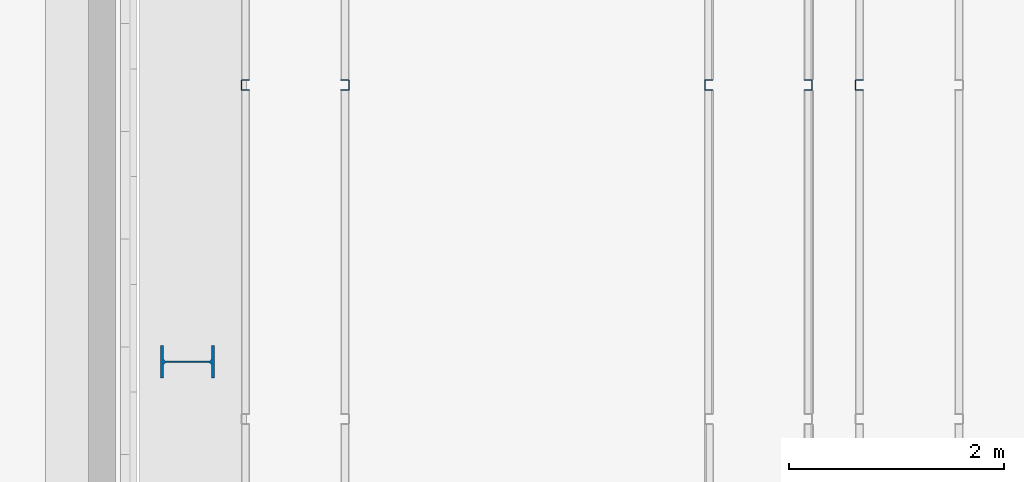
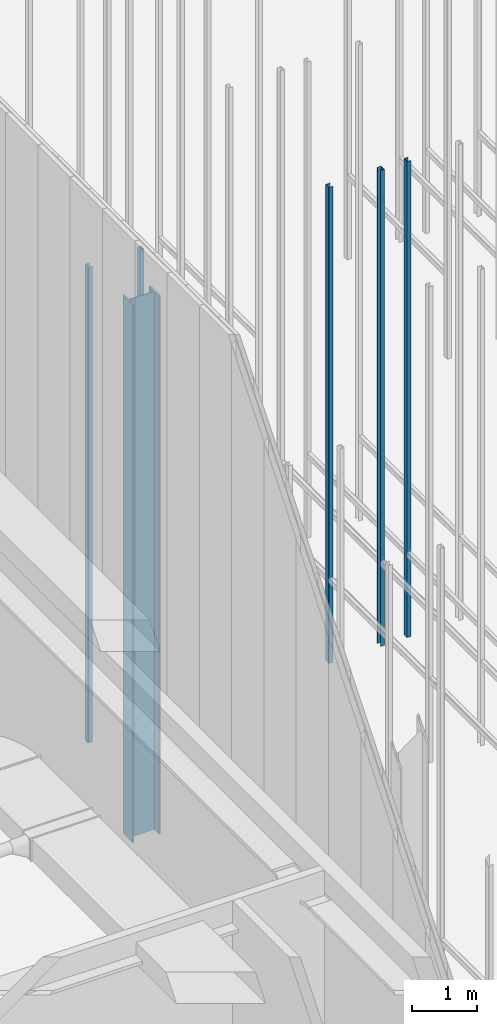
# One storey, part 21 of 302: 6 columns.
"""IFC2X3 building model written with IfcOpenShell, lengths in metres."""

from ifc_helpers import new_model, entity, si_unit, converted_unit, derived_unit, direction, frame, frame_2d, origin, place, context, subcontext, project, spatial, polyline, circle_curve, parameter, trimmed, segment, composite_curve, outline, extrude, source, transform, mapped, material, type_object, type_shapes, element, save


model = new_model("IFC2X3")

# Units and contexts
model_context = context("Model", 3, precision=1e-05, world=origin(), true_north=direction((6.12303176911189e-17, 1.0)))
body_context = subcontext(model_context, "Body", "Model", "MODEL_VIEW")
ifc_project = project(units=[si_unit("LENGTHUNIT", "METRE"), si_unit("AREAUNIT", "SQUARE_METRE"), si_unit("VOLUMEUNIT", "CUBIC_METRE"), converted_unit("PLANEANGLEUNIT", "DEGREE", entity("IfcRatioMeasure", 0.0174532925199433), si_unit("PLANEANGLEUNIT", "RADIAN"), dimensions=[0, 0, 0, 0, 0, 0, 0]), si_unit("MASSUNIT", "GRAM", prefix="KILO"), derived_unit("MASSDENSITYUNIT", [(si_unit("MASSUNIT", "GRAM", prefix="KILO"), 1), (si_unit("LENGTHUNIT", "METRE"), -3)]), derived_unit("MOMENTOFINERTIAUNIT", [(si_unit("LENGTHUNIT", "METRE"), 4)]), si_unit("TIMEUNIT", "SECOND"), si_unit("FREQUENCYUNIT", "HERTZ"), si_unit("THERMODYNAMICTEMPERATUREUNIT", "DEGREE_CELSIUS"), derived_unit("THERMALTRANSMITTANCEUNIT", [(si_unit("MASSUNIT", "GRAM", prefix="KILO"), 1), (si_unit("THERMODYNAMICTEMPERATUREUNIT", "KELVIN"), -1), (si_unit("TIMEUNIT", "SECOND"), -3)]), derived_unit("VOLUMETRICFLOWRATEUNIT", [(si_unit("LENGTHUNIT", "METRE"), 3), (si_unit("TIMEUNIT", "SECOND"), -1)]), si_unit("ELECTRICCURRENTUNIT", "AMPERE"), si_unit("ELECTRICVOLTAGEUNIT", "VOLT"), si_unit("POWERUNIT", "WATT"), si_unit("FORCEUNIT", "NEWTON", prefix="KILO"), si_unit("ILLUMINANCEUNIT", "LUX"), si_unit("LUMINOUSFLUXUNIT", "LUMEN"), si_unit("LUMINOUSINTENSITYUNIT", "CANDELA"), derived_unit("USERDEFINED", [(si_unit("MASSUNIT", "GRAM", prefix="KILO"), -1), (si_unit("LENGTHUNIT", "METRE"), -2), (si_unit("TIMEUNIT", "SECOND"), 3), (si_unit("LUMINOUSFLUXUNIT", "LUMEN"), 1)]), derived_unit("LINEARVELOCITYUNIT", [(si_unit("LENGTHUNIT", "METRE"), 1), (si_unit("TIMEUNIT", "SECOND"), -1)]), si_unit("PRESSUREUNIT", "PASCAL"), derived_unit("USERDEFINED", [(si_unit("LENGTHUNIT", "METRE"), -2), (si_unit("MASSUNIT", "GRAM", prefix="KILO"), 1), (si_unit("TIMEUNIT", "SECOND"), -2)]), derived_unit("LINEARFORCEUNIT", [(si_unit("MASSUNIT", "GRAM", prefix="KILO"), 1), (si_unit("LENGTHUNIT", "METRE"), 1), (si_unit("TIMEUNIT", "SECOND"), -2), (si_unit("LENGTHUNIT", "METRE"), -1)]), derived_unit("PLANARFORCEUNIT", [(si_unit("MASSUNIT", "GRAM", prefix="KILO"), 1), (si_unit("LENGTHUNIT", "METRE"), 1), (si_unit("TIMEUNIT", "SECOND"), -2), (si_unit("LENGTHUNIT", "METRE"), -2)])], contexts=[model_context])

# Site, building, storey
site_placement = place(None, origin())
site = spatial("IfcSite", under=ifc_project, at=site_placement, Name="Default", CompositionType="ELEMENT")
building_placement = place(site_placement, origin())
building = spatial("IfcBuilding", under=site, at=building_placement, CompositionType="ELEMENT")
storey_placement = place(building_placement, frame((0.0, 0.0, -1.3)))
storey = spatial("IfcBuildingStorey", under=building, at=storey_placement, Name="00_EG", CompositionType="ELEMENT", Elevation=-1.3)

# Columns
ifc_material = material(Name="Metall - Baustahl S235")
column_type_1 = type_object("IfcColumnType", Name="HEB Stütze:HEB 500", PredefinedType="COLUMN", material=ifc_material)
shared_shape_1 = source(origin(), body_context, "Body", "SweptSolid", [
    extrude(outline(composite_curve([segment(polyline([(0.222, -0.15), (0.25, -0.15)]), True, "CONTINUOUS"), segment(polyline([(0.25, -0.15), (0.25, 0.15)]), True, "CONTINUOUS"), segment(polyline([(0.25, 0.15), (0.222, 0.15)]), True, "CONTINUOUS"), segment(polyline([(0.222, 0.15), (0.222, 0.0342500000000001)]), True, "CONTINUOUS"), segment(trimmed(circle_curve(frame_2d((0.195, 0.0342500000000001), x_axis=(1.0, 0.0)), 0.0270000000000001), [parameter(270.0)], [parameter(0.0)], True, "PARAMETER"), False, "CONTINUOUS"), segment(polyline([(0.195, 0.00724999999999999), (-0.195, 0.00724999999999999)]), True, "CONTINUOUS"), segment(trimmed(circle_curve(frame_2d((-0.195, 0.03425), x_axis=(0.0, -1.0)), 0.027), [parameter(270.0)], [parameter(0.0)], True, "PARAMETER"), False, "CONTINUOUS"), segment(polyline([(-0.222, 0.0342500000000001), (-0.222, 0.15)]), True, "CONTINUOUS"), segment(polyline([(-0.222, 0.15), (-0.25, 0.15)]), True, "CONTINUOUS"), segment(polyline([(-0.25, 0.15), (-0.25, -0.15)]), True, "CONTINUOUS"), segment(polyline([(-0.25, -0.15), (-0.222, -0.15)]), True, "CONTINUOUS"), segment(polyline([(-0.222, -0.15), (-0.222, -0.03425)]), True, "CONTINUOUS"), segment(trimmed(circle_curve(frame_2d((-0.195, -0.03425), x_axis=(-1.0, 0.0)), 0.027), [parameter(269.999999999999)], [parameter(0.0)], True, "PARAMETER"), False, "CONTINUOUS"), segment(polyline([(-0.195, -0.00724999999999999), (0.195, -0.00724999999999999)]), True, "CONTINUOUS"), segment(trimmed(circle_curve(frame_2d((0.195, -0.03425), x_axis=(0.0, 1.0)), 0.027), [parameter(270.0)], [parameter(0.0)], True, "PARAMETER"), False, "CONTINUOUS"), segment(polyline([(0.222, -0.0342499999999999), (0.222, -0.15)]), True, "CONTINUOUS")], self_intersect=False)), frame((0.0, 0.0, -0.0300000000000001), z_axis=(0.0, 0.0, 1.0), x_axis=(0.0, -1.0, 0.0)), (0.0, 0.0, 1.0), 10.175),
])
type_shapes(column_type_1, [shared_shape_1])
column_placement = place(storey_placement, frame((-206.990111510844, 40.028088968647, 1.3), z_axis=(0.0, 0.0, 1.0), x_axis=(0.0, -1.0, 0.0)))
element("IfcColumn", 1, at=column_placement, inside=storey, type_object=column_type_1, material=ifc_material, Name="HEB Stütze:HEB 500", ObjectType="HEB Stütze:HEB 500", context=body_context, shape_type="MappedRepresentation", body=[
    mapped(shared_shape_1, transform((0.0, 0.0, 0.0), scale=1.0)),
])
column_type_2 = type_object("IfcColumnType", Name="Leichter Stahl Schlossschrauben Stütze:C 100", PredefinedType="COLUMN", material=ifc_material)
shared_shape_2 = source(origin(), body_context, "Body", "SweptSolid", [
    extrude(outline(composite_curve([segment(polyline([(-0.0469749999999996, -0.0499999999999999), (0.0214500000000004, -0.0499999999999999)]), True, "CONTINUOUS"), segment(trimmed(circle_curve(frame_2d((0.0214500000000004, -0.0434249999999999), x_axis=(0.0, -1.0)), 0.00657500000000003), [parameter(0.0)], [parameter(89.9999999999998)], True, "PARAMETER"), True, "CONTINUOUS"), segment(polyline([(0.0280250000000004, -0.0434249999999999), (0.0280250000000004, 0.0434250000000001)]), True, "CONTINUOUS"), segment(trimmed(circle_curve(frame_2d((0.0214500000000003, 0.0434250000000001), x_axis=(1.0, 0.0)), 0.0065750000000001), [parameter(0.0)], [parameter(89.9999999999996)], True, "PARAMETER"), True, "CONTINUOUS"), segment(polyline([(0.0214500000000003, 0.0500000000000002), (-0.0469750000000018, 0.0500000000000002)]), True, "CONTINUOUS"), segment(polyline([(-0.0469750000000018, 0.0500000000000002), (-0.0469750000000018, 0.0450000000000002)]), True, "CONTINUOUS"), segment(polyline([(-0.0469750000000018, 0.0450000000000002), (0.0214500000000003, 0.0450000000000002)]), True, "CONTINUOUS"), segment(trimmed(circle_curve(frame_2d((0.0214500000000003, 0.0434249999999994), x_axis=(0.0, 1.0)), 0.00157500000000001), [parameter(269.999999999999)], [parameter(0.0)], True, "PARAMETER"), False, "CONTINUOUS"), segment(polyline([(0.0230250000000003, 0.0434249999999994), (0.0230250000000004, -0.0434249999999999)]), True, "CONTINUOUS"), segment(trimmed(circle_curve(frame_2d((0.0214500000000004, -0.0434249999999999), x_axis=(1.0, 0.0)), 0.00157500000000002), [parameter(270.0)], [parameter(0.0)], True, "PARAMETER"), False, "CONTINUOUS"), segment(polyline([(0.0214500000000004, -0.0449999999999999), (-0.0469749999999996, -0.0449999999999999)]), True, "CONTINUOUS"), segment(polyline([(-0.0469749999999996, -0.0449999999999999), (-0.0469749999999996, -0.0499999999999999)]), True, "CONTINUOUS")], self_intersect=False)), frame((0.0499999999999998, 0.0280250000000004, -0.0300000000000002), z_axis=(0.0, 0.0, 1.0), x_axis=(0.0, -1.0, 0.0)), (0.0, 0.0, 1.0), 9.0),
])
type_shapes(column_type_2, [shared_shape_2])
for number, where, z_axis, x_axis in (
    (2, (-200.790111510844, 42.648088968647, 1.3), (0.0, 0.0, 1.0), (0.0, -1.0, 0.0)),
    (3, (-202.190111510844, 42.648088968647, 1.3), (0.0, 0.0, 1.0), (0.0, -1.0, 0.0)),
    (4, (-206.490111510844, 42.6480889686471, 1.3), (0.0, 0.0, 1.0), (0.0, -1.0, 0.0)),
):
    element("IfcColumn", number, at=place(storey_placement, frame(where, z_axis=z_axis, x_axis=x_axis)), inside=storey, type_object=column_type_2, material=ifc_material, Name="Leichter Stahl Schlossschrauben Stütze:C 100", ObjectType="Leichter Stahl Schlossschrauben Stütze:C 100", context=body_context, shape_type="MappedRepresentation", body=[
        mapped(shared_shape_2, transform((0.0, 0.0, 0.0), scale=1.0)),
    ])
column_type_3 = type_object("IfcColumnType", Name="Leichter Stahl Schlossschrauben Stütze:C 100", PredefinedType="COLUMN", material=ifc_material)
shared_shape_3 = source(origin(), body_context, "Body", "SweptSolid", [
    extrude(outline(composite_curve([segment(polyline([(-0.0214500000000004, -0.0499999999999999), (0.0469749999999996, -0.0499999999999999)]), True, "CONTINUOUS"), segment(polyline([(0.0469749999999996, -0.0499999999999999), (0.0469749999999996, -0.0449999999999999)]), True, "CONTINUOUS"), segment(polyline([(0.0469749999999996, -0.0449999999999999), (-0.0214500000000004, -0.045)]), True, "CONTINUOUS"), segment(trimmed(circle_curve(frame_2d((-0.0214500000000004, -0.043425), x_axis=(0.0, -1.0)), 0.00157500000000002), [parameter(270.0)], [parameter(0.0)], True, "PARAMETER"), False, "CONTINUOUS"), segment(polyline([(-0.0230250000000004, -0.0434249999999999), (-0.0230250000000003, 0.0434249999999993)]), True, "CONTINUOUS"), segment(trimmed(circle_curve(frame_2d((-0.0214500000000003, 0.0434249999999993), x_axis=(-1.0, 0.0)), 0.00157500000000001), [parameter(269.999999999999)], [parameter(0.0)], True, "PARAMETER"), False, "CONTINUOUS"), segment(polyline([(-0.0214500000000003, 0.0450000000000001), (0.0469750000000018, 0.0450000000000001)]), True, "CONTINUOUS"), segment(polyline([(0.0469750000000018, 0.0450000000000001), (0.0469750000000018, 0.0500000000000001)]), True, "CONTINUOUS"), segment(polyline([(0.0469750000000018, 0.0500000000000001), (-0.0214500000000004, 0.0500000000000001)]), True, "CONTINUOUS"), segment(trimmed(circle_curve(frame_2d((-0.0214500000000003, 0.043425), x_axis=(0.0, 1.0)), 0.0065750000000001), [parameter(0.0)], [parameter(89.9999999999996)], True, "PARAMETER"), True, "CONTINUOUS"), segment(polyline([(-0.0280250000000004, 0.043425), (-0.0280250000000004, -0.043425)]), True, "CONTINUOUS"), segment(trimmed(circle_curve(frame_2d((-0.0214500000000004, -0.0434249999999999), x_axis=(-1.0, 0.0)), 0.00657500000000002), [parameter(0.0)], [parameter(89.9999999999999)], True, "PARAMETER"), True, "CONTINUOUS")], self_intersect=False)), frame((0.0499999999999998, -0.0280250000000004, -0.0300000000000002), z_axis=(0.0, 0.0, 1.0), x_axis=(0.0, -1.0, 0.0)), (0.0, 0.0, 1.0), 9.0),
])
type_shapes(column_type_3, [shared_shape_3])
for number, where, z_axis, x_axis in (
    (5, (-201.190111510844, 42.648088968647, 1.3), (0.0, 0.0, 1.0), (0.0, -1.0, 0.0)),
    (6, (-205.490111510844, 42.6480889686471, 1.3), (0.0, 0.0, 1.0), (0.0, -1.0, 0.0)),
):
    element("IfcColumn", number, at=place(storey_placement, frame(where, z_axis=z_axis, x_axis=x_axis)), inside=storey, type_object=column_type_3, material=ifc_material, Name="Leichter Stahl Schlossschrauben Stütze:C 100", ObjectType="Leichter Stahl Schlossschrauben Stütze:C 100", context=body_context, shape_type="MappedRepresentation", body=[
        mapped(shared_shape_3, transform((0.0, 0.0, 0.0), scale=1.0)),
    ])

save(model, "model.ifc")
